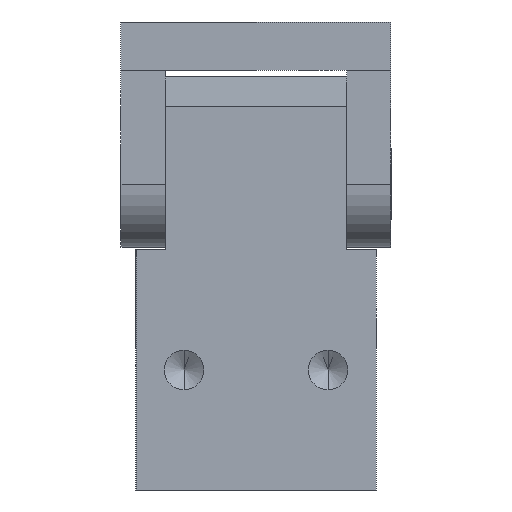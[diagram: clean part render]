
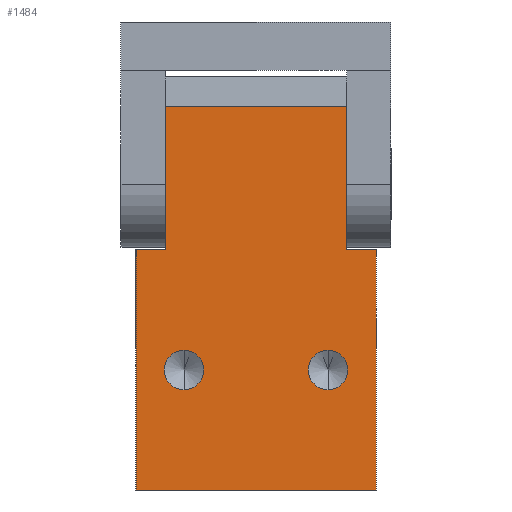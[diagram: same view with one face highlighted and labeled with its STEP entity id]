
A CAD part, left-side view. The second image highlights one B-rep face of the part: STEP entity #1484.
In plain terms, the highlighted planar face has unit normal (-1, 0, 0).
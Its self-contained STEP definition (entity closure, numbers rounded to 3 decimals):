
#774 = VERTEX_POINT ( 'NONE', #3149 ) ;
#776 = VERTEX_POINT ( 'NONE', #3145 ) ;
#799 = VERTEX_POINT ( 'NONE', #3270 ) ;
#811 = EDGE_CURVE ( 'NONE', #799, #776, #3191, .T. ) ;
#845 = VERTEX_POINT ( 'NONE', #3356 ) ;
#930 = EDGE_CURVE ( 'NONE', #845, #774, #3472, .T. ) ;
#1138 = VERTEX_POINT ( 'NONE', #3833 ) ;
#1156 = EDGE_CURVE ( 'NONE', #1291, #1217, #3750, .T. ) ;
#1170 = VERTEX_POINT ( 'NONE', #3867 ) ;
#1178 = EDGE_CURVE ( 'NONE', #1170, #1366, #3741, .T. ) ;
#1217 = VERTEX_POINT ( 'NONE', #3898 ) ;
#1224 = EDGE_CURVE ( 'NONE', #1138, #1217, #3783, .T. ) ;
#1238 = VERTEX_POINT ( 'NONE', #3964 ) ;
#1260 = EDGE_CURVE ( 'NONE', #1238, #1291, #3928, .T. ) ;
#1291 = VERTEX_POINT ( 'NONE', #4048 ) ;
#1337 = ORIENTED_EDGE ( 'NONE', *, *, #811, .F. ) ;
#1366 = VERTEX_POINT ( 'NONE', #4643 ) ;
#1376 = EDGE_CURVE ( 'NONE', #1435, #1238, #4004, .T. ) ;
#1377 = ORIENTED_EDGE ( 'NONE', *, *, #1178, .F. ) ;
#1395 = ORIENTED_EDGE ( 'NONE', *, *, #1483, .F. ) ;
#1410 = EDGE_LOOP ( 'NONE', ( #1457, #1432 ) ) ;
#1430 = ORIENTED_EDGE ( 'NONE', *, *, #1480, .T. ) ;
#1431 = ORIENTED_EDGE ( 'NONE', *, *, #1260, .F. ) ;
#1432 = ORIENTED_EDGE ( 'NONE', *, *, #930, .F. ) ;
#1433 = ORIENTED_EDGE ( 'NONE', *, *, #1224, .T. ) ;
#1434 = VERTEX_POINT ( 'NONE', #4757 ) ;
#1435 = VERTEX_POINT ( 'NONE', #4723 ) ;
#1436 = ORIENTED_EDGE ( 'NONE', *, *, #1447, .T. ) ;
#1437 = ORIENTED_EDGE ( 'NONE', *, *, #1156, .F. ) ;
#1438 = EDGE_CURVE ( 'NONE', #1435, #1434, #4691, .T. ) ;
#1439 = ORIENTED_EDGE ( 'NONE', *, *, #1438, .T. ) ;
#1440 = EDGE_LOOP ( 'NONE', ( #1441, #1439, #1436, #1377, #1430, #1433, #1437, #1431 ) ) ;
#1441 = ORIENTED_EDGE ( 'NONE', *, *, #1376, .F. ) ;
#1447 = EDGE_CURVE ( 'NONE', #1434, #1366, #4707, .T. ) ;
#1451 = EDGE_LOOP ( 'NONE', ( #1395, #1337 ) ) ;
#1457 = ORIENTED_EDGE ( 'NONE', *, *, #1458, .F. ) ;
#1458 = EDGE_CURVE ( 'NONE', #774, #845, #4703, .T. ) ;
#1480 = EDGE_CURVE ( 'NONE', #1170, #1138, #5747, .T. ) ;
#1483 = EDGE_CURVE ( 'NONE', #776, #799, #5756, .T. ) ;
#1484 = ADVANCED_FACE ( 'NONE', ( #5729, #5771, #5757 ), #5735, .F. ) ;
#3145 = CARTESIAN_POINT ( 'NONE',  ( -45., -8., 23.3 ) ) ;
#3149 = CARTESIAN_POINT ( 'NONE',  ( -45., -32., 23.3 ) ) ;
#3182 = DIRECTION ( 'NONE',  ( 0., 0., 1. ) ) ;
#3183 = DIRECTION ( 'NONE',  ( -1., 0., 0. ) ) ;
#3184 = CARTESIAN_POINT ( 'NONE',  ( -45., -8., 20. ) ) ;
#3185 = AXIS2_PLACEMENT_3D ( 'NONE', #3184, #3183, #3182 ) ;
#3191 = CIRCLE ( 'NONE', #3185, 3.3 ) ;
#3270 = CARTESIAN_POINT ( 'NONE',  ( -45., -8., 16.7 ) ) ;
#3352 = DIRECTION ( 'NONE',  ( 0., 0., 1. ) ) ;
#3353 = DIRECTION ( 'NONE',  ( -1., 0., 0. ) ) ;
#3354 = AXIS2_PLACEMENT_3D ( 'NONE', #3462, #3353, #3352 ) ;
#3356 = CARTESIAN_POINT ( 'NONE',  ( -45., -32., 16.7 ) ) ;
#3462 = CARTESIAN_POINT ( 'NONE',  ( -45., -32., 20. ) ) ;
#3472 = CIRCLE ( 'NONE', #3354, 3.3 ) ;
#3707 = DIRECTION ( 'NONE',  ( 0., -1., 0. ) ) ;
#3708 = VECTOR ( 'NONE', #3707, 1000. ) ;
#3740 = CARTESIAN_POINT ( 'NONE',  ( -45., 0., 40. ) ) ;
#3741 = LINE ( 'NONE', #3740, #3708 ) ;
#3747 = DIRECTION ( 'NONE',  ( 0., 0., -1. ) ) ;
#3748 = VECTOR ( 'NONE', #3747, 1000. ) ;
#3749 = CARTESIAN_POINT ( 'NONE',  ( -45., -40., 40. ) ) ;
#3750 = LINE ( 'NONE', #3749, #3748 ) ;
#3780 = DIRECTION ( 'NONE',  ( 0., -1., 0. ) ) ;
#3781 = VECTOR ( 'NONE', #3780, 1000. ) ;
#3782 = CARTESIAN_POINT ( 'NONE',  ( -45., 0., 0. ) ) ;
#3783 = LINE ( 'NONE', #3782, #3781 ) ;
#3833 = CARTESIAN_POINT ( 'NONE',  ( -45., 0., 0. ) ) ;
#3867 = CARTESIAN_POINT ( 'NONE',  ( -45., 0., 40. ) ) ;
#3898 = CARTESIAN_POINT ( 'NONE',  ( -45., -40., 0. ) ) ;
#3928 = LINE ( 'NONE', #3976, #3975 ) ;
#3964 = CARTESIAN_POINT ( 'NONE',  ( -45., -35.15, 40. ) ) ;
#3974 = DIRECTION ( 'NONE',  ( 0., -1., 0. ) ) ;
#3975 = VECTOR ( 'NONE', #3974, 1000. ) ;
#3976 = CARTESIAN_POINT ( 'NONE',  ( -45., 0., 40. ) ) ;
#4003 = CARTESIAN_POINT ( 'NONE',  ( -45., -35.15, 69. ) ) ;
#4004 = LINE ( 'NONE', #4003, #4056 ) ;
#4048 = CARTESIAN_POINT ( 'NONE',  ( -45., -40., 40. ) ) ;
#4055 = DIRECTION ( 'NONE',  ( 0., 0., -1. ) ) ;
#4056 = VECTOR ( 'NONE', #4055, 1000. ) ;
#4643 = CARTESIAN_POINT ( 'NONE',  ( -45., -4.85, 40. ) ) ;
#4691 = LINE ( 'NONE', #4780, #4779 ) ;
#4703 = CIRCLE ( 'NONE', #4761, 3.3 ) ;
#4704 = DIRECTION ( 'NONE',  ( 0., 0., -1. ) ) ;
#4705 = VECTOR ( 'NONE', #4704, 1000. ) ;
#4706 = CARTESIAN_POINT ( 'NONE',  ( -45., -4.85, 69. ) ) ;
#4707 = LINE ( 'NONE', #4706, #4705 ) ;
#4711 = DIRECTION ( 'NONE',  ( 0., 0., 1. ) ) ;
#4712 = DIRECTION ( 'NONE',  ( -1., 0., 0. ) ) ;
#4713 = CARTESIAN_POINT ( 'NONE',  ( -45., -32., 20. ) ) ;
#4723 = CARTESIAN_POINT ( 'NONE',  ( -45., -35.15, 64. ) ) ;
#4757 = CARTESIAN_POINT ( 'NONE',  ( -45., -4.85, 64. ) ) ;
#4761 = AXIS2_PLACEMENT_3D ( 'NONE', #4713, #4712, #4711 ) ;
#4779 = VECTOR ( 'NONE', #4794, 1000. ) ;
#4780 = CARTESIAN_POINT ( 'NONE',  ( -45., -4.85, 64. ) ) ;
#4794 = DIRECTION ( 'NONE',  ( 0., 1., 0. ) ) ;
#5728 = AXIS2_PLACEMENT_3D ( 'NONE', #5763, #5759, #5758 ) ;
#5729 = FACE_BOUND ( 'NONE', #1451, .T. ) ;
#5730 = CARTESIAN_POINT ( 'NONE',  ( -45., 0., 40. ) ) ;
#5731 = DIRECTION ( 'NONE',  ( 0., 0., 1. ) ) ;
#5733 = DIRECTION ( 'NONE',  ( -1., 0., 0. ) ) ;
#5735 = PLANE ( 'NONE',  #5728 ) ;
#5738 = CARTESIAN_POINT ( 'NONE',  ( -45., -8., 20. ) ) ;
#5747 = LINE ( 'NONE', #5730, #5761 ) ;
#5749 = AXIS2_PLACEMENT_3D ( 'NONE', #5738, #5733, #5731 ) ;
#5756 = CIRCLE ( 'NONE', #5749, 3.3 ) ;
#5757 = FACE_OUTER_BOUND ( 'NONE', #1440, .T. ) ;
#5758 = DIRECTION ( 'NONE',  ( 0., 1., 0. ) ) ;
#5759 = DIRECTION ( 'NONE',  ( 1., 0., 0. ) ) ;
#5761 = VECTOR ( 'NONE', #5762, 1000. ) ;
#5762 = DIRECTION ( 'NONE',  ( 0., 0., -1. ) ) ;
#5763 = CARTESIAN_POINT ( 'NONE',  ( -45., 0., 40. ) ) ;
#5771 = FACE_BOUND ( 'NONE', #1410, .T. ) ;
